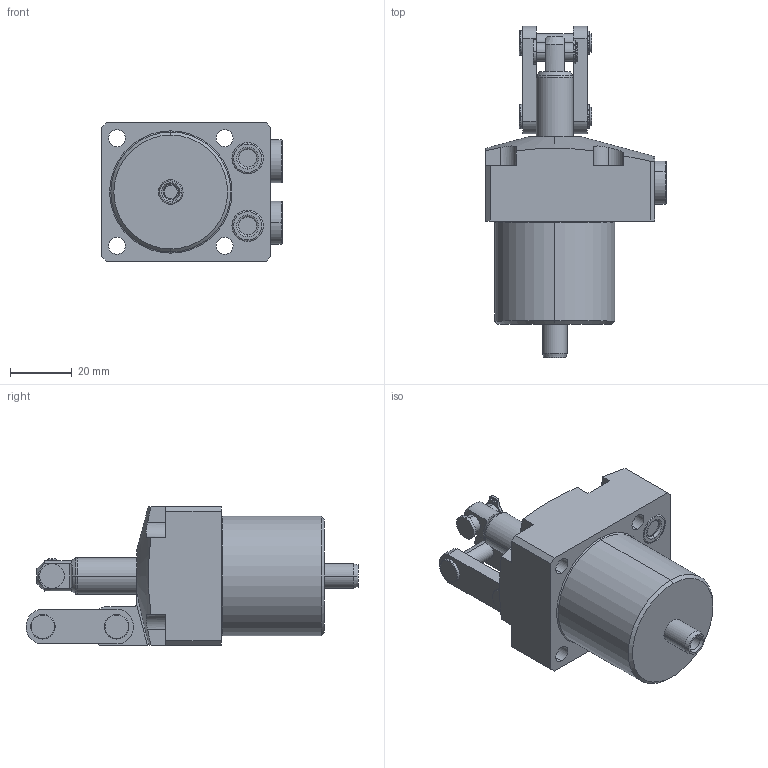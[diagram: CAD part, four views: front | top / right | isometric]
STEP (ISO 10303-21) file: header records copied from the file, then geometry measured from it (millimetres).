
FILE_DESCRIPTION(/* description */ (''),/* implementation_level */ '2;1');
FILE_NAME(/* name */ 'TPC02-RD.stp',/* time_stamp */ '2025-01-05T10:20:08+08:00',/* author */ (''),/* organization */ (''),/* preprocessor_version */ 'ST-DEVELOPER v16.7',/* originating_system */ 'SIEMENS PLM Software NX 12.0',/* authorisation */ '');
FILE_SCHEMA (('AUTOMOTIVE_DESIGN { 1 0 10303 214 3 1 1 1 }'));
Length unit declared in the file: millimetre
Products named in the file (5): TPC02-RD-04; TPC02-RD-03; TPC02-RD-02; TPC02-RD-01; TPC02-RD_stp
Assembly tree (5 placements, depth 2):
  TPC02-RD_stp
    TPC02-RD-01
    TPC02-RD-02
    TPC02-RD-03
    TPC02-RD-04  x2
Bounding box: 58.8 x 107.98 x 45 mm (x, y, z)
Volume: 105441.5 mm3; surface area: 26147.1 mm2
Topology: 5 solids, 7 shells, 308 faces, 730 edges, 462 vertices
Faces by surface type: cylinder 128, plane 120, torus 34, cone 24, extrusion 2
Entity records: 8664 total; most frequent: CARTESIAN_POINT 1655, DIRECTION 1544, ORIENTED_EDGE 1368, EDGE_CURVE 684, AXIS2_PLACEMENT_3D 615, VERTEX_POINT 434, EDGE_LOOP 332, CIRCLE 325
